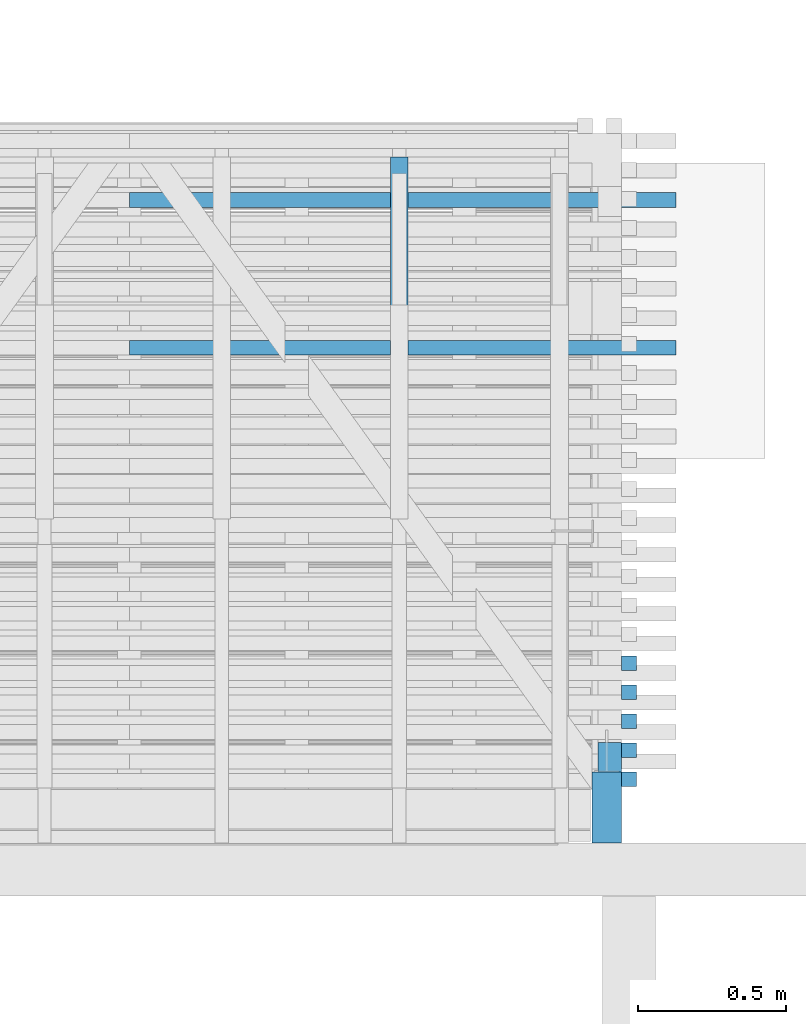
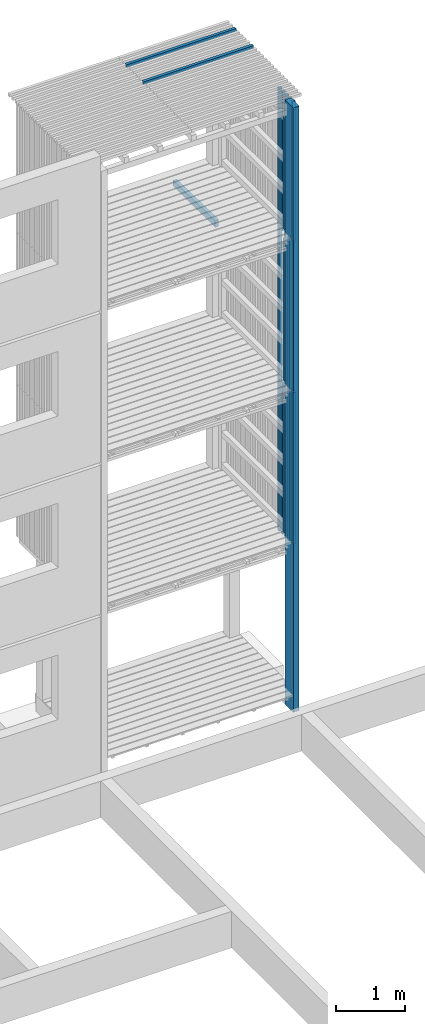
# One storey, part 128 of 182: 20 beams.
"""IFC2X3 building model written with IfcOpenShell, lengths in metres."""

import ifcopenshell
import ifcopenshell.guid

model = None  # the IFC model being written
_history = None  # IfcOwnerHistory: only IFC2X3 demands one
_inside = {}  # id of a spatial element -> (the spatial element, [elements in it])
_under = {}  # id of a project, library or spatial element -> (it, [spatial elements below it])
_declared = {}  # id of a project -> (the project, [libraries it declares])
_typed = {}  # id of a type object -> (the type object, [elements of that type])
_made_of = {}  # id of a material, layer set ... -> (it, [elements and type objects made of it])


def new_model(schema):
    """Start an empty IFC model of exactly this schema.

    Asked for "IFC4X3", IfcOpenShell would pick the latest addendum, in which some entities
    have other attributes; the version numbers below select the first issue.
    IFC2X3 requires an IfcOwnerHistory on every rooted entity: one is made here for all.
    """
    global model, _history
    if schema == "IFC4X3":
        model = ifcopenshell.file(schema_version=(4, 3, 0, 0))
    else:
        model = ifcopenshell.file(schema=schema)
    _inside.clear()
    _under.clear()
    _declared.clear()
    _typed.clear()
    _made_of.clear()
    _history = None
    if model.schema == "IFC2X3":
        org = make("IfcOrganization", Name="unknown")
        user = make(
            "IfcPersonAndOrganization",
            ThePerson=make("IfcPerson", FamilyName="unknown"),
            TheOrganization=org,
        )
        app = make(
            "IfcApplication",
            ApplicationDeveloper=org,
            Version="unknown",
            ApplicationFullName="unknown",
            ApplicationIdentifier="unknown",
        )
        _history = make(
            "IfcOwnerHistory",
            OwningUser=user,
            OwningApplication=app,
            ChangeAction="ADDED",
            CreationDate=0,
        )
    return model


def make(cls, **values):
    """One entity of the class cls with the attributes given. An attribute that is None is left unset."""
    return model.create_entity(
        cls, **{name: value for name, value in values.items() if value is not None}
    )


def rooted(cls, **values):
    """An entity with a GlobalId (a new one), such as an element, a storey or a relation."""
    return make(cls, GlobalId=ifcopenshell.guid.new(), OwnerHistory=_history, **values)


def si_unit(unit_type, name, prefix=None):
    """IfcSIUnit, for example si_unit("LENGTHUNIT", "METRE", prefix="MILLI")."""
    return make("IfcSIUnit", UnitType=unit_type, Prefix=prefix, Name=name)


def assignment(units):
    """IfcUnitAssignment: the units of a project."""
    return None if units is None else make("IfcUnitAssignment", Units=units)


def point(xyz):
    """IfcCartesianPoint."""
    return None if xyz is None else make("IfcCartesianPoint", Coordinates=xyz)


def direction(xyz):
    """IfcDirection."""
    return None if xyz is None else make("IfcDirection", DirectionRatios=xyz)


def frame(location, z_axis=None, x_axis=None):
    """IfcAxis2Placement3D, a coordinate frame: its origin and axes. An axis left out is left unset."""
    return make(
        "IfcAxis2Placement3D",
        Location=point(location),
        Axis=direction(z_axis),
        RefDirection=direction(x_axis),
    )


def origin():
    """The frame at (0, 0, 0) with its axes left unset."""
    return frame((0.0, 0.0, 0.0))


def place(relative_to, where):
    """IfcLocalPlacement: puts the frame where relative to a parent placement (None: the world)."""
    return make(
        "IfcLocalPlacement", PlacementRelTo=relative_to, RelativePlacement=where
    )


def context(
    kind, dimensions, precision=None, world=None, true_north=None, identifier=None
):
    """IfcGeometricRepresentationContext, for example the 3D "Model" context."""
    return make(
        "IfcGeometricRepresentationContext",
        ContextIdentifier=identifier,
        ContextType=kind,
        CoordinateSpaceDimension=dimensions,
        Precision=precision,
        WorldCoordinateSystem=world,
        TrueNorth=true_north,
    )


def project(units=None, contexts=None):
    """IfcProject with its units and contexts."""
    return rooted(
        "IfcProject",
        Name="project",
        RepresentationContexts=contexts,
        UnitsInContext=assignment(units),
    )


def spatial(cls, under=None, at=None, **own):
    """A site, building, storey or space (cls), placed at a placement, below another one or the project."""
    s = rooted(cls, ObjectPlacement=at, **own)
    if under is not None:
        _under.setdefault(under.id(), (under, []))[1].append(s)
    return s


def faces_of(points, faces, orient=None, outer=None):
    """IfcFace entities. A face is a list of loops; a loop is a list of indices into points, from 0.

    orient and outer hold one flag for each loop. By default every Orientation is true, the
    first loop of a face is its IfcFaceOuterBound and the others are IfcFaceBound.
    """
    made = []
    for i, loops in enumerate(faces):
        bounds = []
        for j, loop in enumerate(loops):
            is_outer = j == 0 if outer is None else outer[i][j]
            bounds.append(
                make(
                    "IfcFaceOuterBound" if is_outer else "IfcFaceBound",
                    Bound=make("IfcPolyLoop", Polygon=[points[k] for k in loop]),
                    Orientation=True if orient is None else orient[i][j],
                )
            )
        made.append(make("IfcFace", Bounds=bounds))
    return made


def faceted_brep(points, faces, orient=None, outer=None, voids=None):
    """IfcFacetedBrep: a solid bounded by flat faces; with voids (closed shells), ...WithVoids."""
    shared = [point(p) for p in points]
    hull = make("IfcClosedShell", CfsFaces=faces_of(shared, faces, orient, outer))
    if voids is None:
        return make("IfcFacetedBrep", Outer=hull)
    return make(
        "IfcFacetedBrepWithVoids",
        Outer=hull,
        Voids=[
            make(cls, CfsFaces=faces_of(shared, fs, o, b)) for cls, fs, o, b in voids
        ],
    )


def shape(context_of_items, identifier, shape_type, items):
    """IfcShapeRepresentation: the items that make up one representation, for example the "Body"."""
    return make(
        "IfcShapeRepresentation",
        ContextOfItems=context_of_items,
        RepresentationIdentifier=identifier,
        RepresentationType=shape_type,
        Items=items,
    )


def made_of(thing, what):
    """Note that an element or type object is made of a material, layer set ...; save() writes the relation."""
    if what is not None:
        _made_of.setdefault(what.id(), (what, []))[1].append(thing)
    return thing


def element(
    cls,
    number,
    at=None,
    inside=None,
    cuts=None,
    type_object=None,
    material=None,
    context=None,
    identifier="Body",
    shape_type=None,
    held_by="IfcProductDefinitionShape",
    body=None,
    shapes=None,
    **own,
):
    """One element of the class cls, such as IfcWall. Its Tag is "e" and its number.

    at: its placement. inside: the storey or other place that contains it. cuts: it is an
    opening in that element (IfcRelVoidsElement). A single representation is given by context,
    identifier, shape_type and body (its items); several are given by shapes. held_by: the class
    of the entity that holds the representations. save() writes the other relations.
    """
    e = rooted(cls, Tag="e%d" % number, ObjectPlacement=at, **own)
    if body is not None:
        shapes = [shape(context, identifier, shape_type, body)]
    if shapes is not None:
        e.Representation = make(held_by, Representations=shapes)
    if inside is not None:
        _inside.setdefault(inside.id(), (inside, []))[1].append(e)
    if cuts is not None:
        rooted(
            "IfcRelVoidsElement", RelatingBuildingElement=cuts, RelatedOpeningElement=e
        )
    if type_object is not None:
        _typed.setdefault(type_object.id(), (type_object, []))[1].append(e)
    return made_of(e, material)


def aggregate(whole, parts):
    """IfcRelAggregates: a whole, such as a stair, and the parts it consists of."""
    return rooted("IfcRelAggregates", RelatingObject=whole, RelatedObjects=parts)


def save(model, path):
    """Write the relations noted so far, then the file.

    IfcRelAggregates (storeys below a building ...), IfcRelContainedInSpatialStructure (elements
    in a storey), IfcRelDefinesByType, IfcRelAssociatesMaterial and IfcRelDeclares: one each for
    every whole, place, type object, material and project.
    """
    for whole, parts in _under.values():
        aggregate(whole, parts)
    for where, things in _inside.values():
        rooted(
            "IfcRelContainedInSpatialStructure",
            RelatedElements=things,
            RelatingStructure=where,
        )
    for kind, things in _typed.values():
        rooted("IfcRelDefinesByType", RelatedObjects=things, RelatingType=kind)
    for what, things in _made_of.values():
        rooted("IfcRelAssociatesMaterial", RelatedObjects=things, RelatingMaterial=what)
    for by, libraries in _declared.values():
        rooted("IfcRelDeclares", RelatingContext=by, RelatedDefinitions=libraries)
    model.write(path)


model = new_model("IFC2X3")

# Units and contexts
model_context = context("Model", 3, precision=1e-06, world=origin())
ifc_project = project(units=[si_unit("LENGTHUNIT", "METRE"), si_unit("PLANEANGLEUNIT", "RADIAN")], contexts=[model_context])

# Site, building, storey
site = spatial("IfcSite", under=ifc_project, CompositionType="ELEMENT")
building = spatial("IfcBuilding", under=site, CompositionType="ELEMENT")
storey = spatial("IfcBuildingStorey", under=building, Name="vs", CompositionType="ELEMENT", Elevation=-0.85)

# Beams
placement = place(None, origin())
beam_1_placement = place(placement, frame((56.37999999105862, 5.281441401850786, 7.974999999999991), z_axis=(-1.0, 0.0, 0.0), x_axis=(0.0, 0.0, 1.0)))
element("IfcBeam", 1, at=beam_1_placement, inside=storey, Name="Bardage", context=model_context, shape_type="Brep", body=[
    faceted_brep([(2.479999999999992, -0.024999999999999, 0.024999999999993), (2.479999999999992, -0.024999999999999, -0.025000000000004), (2.479999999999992, 0.025000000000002, -0.025000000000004), (2.479999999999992, 0.025000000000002, 0.024999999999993), (0.0, 0.025000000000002, 0.024999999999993), (0.0, -0.024999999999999, 0.024999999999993), (2.479999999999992, -0.024999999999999, 0.024999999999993), (2.479999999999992, 0.025000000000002, 0.024999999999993), (0.0, -0.024999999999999, 0.024999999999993), (0.0, 0.025000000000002, 0.024999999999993), (0.0, 0.025000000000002, -0.025000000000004), (0.0, -0.024999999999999, -0.025000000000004), (0.0, 0.025000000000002, -0.025000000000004), (0.0, 0.025000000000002, 0.024999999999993), (2.479999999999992, 0.025000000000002, 0.024999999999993), (2.479999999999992, 0.025000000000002, -0.025000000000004), (0.0, -0.024999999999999, -0.025000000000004), (0.0, 0.025000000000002, -0.025000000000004), (2.479999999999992, 0.025000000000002, -0.025000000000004), (2.479999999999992, -0.024999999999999, -0.025000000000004), (2.479999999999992, -0.024999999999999, 0.024999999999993), (0.0, -0.024999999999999, 0.024999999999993), (0.0, -0.024999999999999, -0.025000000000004), (2.479999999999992, -0.024999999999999, -0.025000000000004)], [[[0, 1, 2, 3]], [[4, 5, 6, 7]], [[8, 9, 10, 11]], [[12, 13, 14, 15]], [[16, 17, 18, 19]], [[20, 21, 22, 23]]]),
])
beam_2_placement = place(placement, frame((56.37999999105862, 5.085077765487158, 7.974999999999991), z_axis=(-1.0, 0.0, 0.0), x_axis=(0.0, 0.0, 1.0)))
element("IfcBeam", 2, at=beam_2_placement, inside=storey, Name="Bardage", context=model_context, shape_type="Brep", body=[
    faceted_brep([(2.479999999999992, -0.025000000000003, 0.024999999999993), (2.479999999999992, -0.025000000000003, -0.025000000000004), (2.479999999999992, 0.024999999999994, -0.025000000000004), (2.479999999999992, 0.024999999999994, 0.024999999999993), (0.0, 0.024999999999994, 0.024999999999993), (0.0, -0.025000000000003, 0.024999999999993), (2.479999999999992, -0.025000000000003, 0.024999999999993), (2.479999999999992, 0.024999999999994, 0.024999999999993), (0.0, -0.025000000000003, 0.024999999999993), (0.0, 0.024999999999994, 0.024999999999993), (0.0, 0.024999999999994, -0.025000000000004), (0.0, -0.025000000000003, -0.025000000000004), (0.0, 0.024999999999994, -0.025000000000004), (0.0, 0.024999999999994, 0.024999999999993), (2.479999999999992, 0.024999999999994, 0.024999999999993), (2.479999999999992, 0.024999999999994, -0.025000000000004), (0.0, -0.025000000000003, -0.025000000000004), (0.0, 0.024999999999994, -0.025000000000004), (2.479999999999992, 0.024999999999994, -0.025000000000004), (2.479999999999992, -0.025000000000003, -0.025000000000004), (2.479999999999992, -0.025000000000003, 0.024999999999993), (0.0, -0.025000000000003, 0.024999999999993), (0.0, -0.025000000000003, -0.025000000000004), (2.479999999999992, -0.025000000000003, -0.025000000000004)], [[[0, 1, 2, 3]], [[4, 5, 6, 7]], [[8, 9, 10, 11]], [[12, 13, 14, 15]], [[16, 17, 18, 19]], [[20, 21, 22, 23]]]),
])
beam_3_placement = place(placement, frame((56.37999999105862, 5.085077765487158, 2.575000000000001), z_axis=(-1.0, 0.0, 0.0), x_axis=(0.0, 0.0, 1.0)))
element("IfcBeam", 3, at=beam_3_placement, inside=storey, Name="Bardage", context=model_context, shape_type="Brep", body=[
    faceted_brep([(0.0, -0.025000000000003, 0.024999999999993), (0.0, 0.024999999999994, 0.024999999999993), (0.0, 0.024999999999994, -0.025000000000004), (0.0, -0.025000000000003, -0.025000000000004), (2.699961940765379, 0.024999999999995, -0.025000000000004), (2.699961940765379, 0.024999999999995, 0.024999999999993), (2.699961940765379, -0.025000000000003, 0.024999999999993), (2.699961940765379, -0.025000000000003, -0.025000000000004), (0.0, -0.025000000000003, -0.025000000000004), (0.0, 0.024999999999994, -0.025000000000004), (2.699961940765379, 0.024999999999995, -0.025000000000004), (2.699961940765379, -0.025000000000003, -0.025000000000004), (2.699961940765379, 0.024999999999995, -0.025000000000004), (0.0, 0.024999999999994, -0.025000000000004), (0.0, 0.024999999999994, 0.024999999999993), (2.699961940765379, 0.024999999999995, 0.024999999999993), (2.699961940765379, 0.024999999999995, 0.024999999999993), (0.0, 0.024999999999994, 0.024999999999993), (0.0, -0.025000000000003, 0.024999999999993), (2.699961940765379, -0.025000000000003, 0.024999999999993), (2.699961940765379, -0.025000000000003, 0.024999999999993), (0.0, -0.025000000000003, 0.024999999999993), (0.0, -0.025000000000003, -0.025000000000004), (2.699961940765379, -0.025000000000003, -0.025000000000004)], [[[0, 1, 2, 3]], [[4, 5, 6, 7]], [[8, 9, 10, 11]], [[12, 13, 14, 15]], [[16, 17, 18, 19]], [[20, 21, 22, 23]]]),
])
beam_4_placement = place(placement, frame((56.37999999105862, 5.379623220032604, 7.974999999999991), z_axis=(-1.0, 0.0, 0.0), x_axis=(0.0, 1e-15, 1.0)))
element("IfcBeam", 4, at=beam_4_placement, inside=storey, Name="Bardage", context=model_context, shape_type="Brep", body=[
    faceted_brep([(2.479999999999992, -0.025000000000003, 0.024999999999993), (2.479999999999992, -0.025000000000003, -0.025000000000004), (2.479999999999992, 0.024999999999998, -0.025000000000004), (2.479999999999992, 0.024999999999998, 0.024999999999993), (0.0, 0.025000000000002, 0.024999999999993), (0.0, -0.024999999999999, 0.024999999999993), (2.479999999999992, -0.025000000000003, 0.024999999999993), (2.479999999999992, 0.024999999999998, 0.024999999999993), (0.0, -0.024999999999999, 0.024999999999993), (0.0, 0.025000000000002, 0.024999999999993), (0.0, 0.025000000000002, -0.025000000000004), (0.0, -0.024999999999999, -0.025000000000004), (0.0, 0.025000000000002, -0.025000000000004), (0.0, 0.025000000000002, 0.024999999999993), (2.479999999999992, 0.024999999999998, 0.024999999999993), (2.479999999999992, 0.024999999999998, -0.025000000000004), (0.0, -0.024999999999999, -0.025000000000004), (0.0, 0.025000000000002, -0.025000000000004), (2.479999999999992, 0.024999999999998, -0.025000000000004), (2.479999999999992, -0.025000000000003, -0.025000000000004), (2.479999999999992, -0.025000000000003, 0.024999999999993), (0.0, -0.024999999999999, 0.024999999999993), (0.0, -0.024999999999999, -0.025000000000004), (2.479999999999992, -0.025000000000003, -0.025000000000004)], [[[0, 1, 2, 3]], [[4, 5, 6, 7]], [[8, 9, 10, 11]], [[12, 13, 14, 15]], [[16, 17, 18, 19]], [[20, 21, 22, 23]]]),
])
beam_5_placement = place(placement, frame((56.37999999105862, 5.379623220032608, 2.575000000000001), z_axis=(-1.0, 0.0, 0.0), x_axis=(0.0, 0.0, 1.0)))
element("IfcBeam", 5, at=beam_5_placement, inside=storey, Name="Bardage", context=model_context, shape_type="Brep", body=[
    faceted_brep([(0.0, -0.025000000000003, 0.024999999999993), (0.0, 0.024999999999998, 0.024999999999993), (0.0, 0.024999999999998, -0.025000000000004), (0.0, -0.025000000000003, -0.025000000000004), (2.699961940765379, 0.024999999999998, -0.025000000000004), (2.699961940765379, 0.024999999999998, 0.024999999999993), (2.699961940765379, -0.025000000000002, 0.024999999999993), (2.699961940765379, -0.025000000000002, -0.025000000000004), (0.0, -0.025000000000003, -0.025000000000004), (0.0, 0.024999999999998, -0.025000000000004), (2.699961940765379, 0.024999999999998, -0.025000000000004), (2.699961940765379, -0.025000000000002, -0.025000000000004), (2.699961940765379, 0.024999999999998, -0.025000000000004), (0.0, 0.024999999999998, -0.025000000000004), (0.0, 0.024999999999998, 0.024999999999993), (2.699961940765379, 0.024999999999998, 0.024999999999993), (2.699961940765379, 0.024999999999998, 0.024999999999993), (0.0, 0.024999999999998, 0.024999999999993), (0.0, -0.025000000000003, 0.024999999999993), (2.699961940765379, -0.025000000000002, 0.024999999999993), (2.699961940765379, -0.025000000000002, 0.024999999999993), (0.0, -0.025000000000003, 0.024999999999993), (0.0, -0.025000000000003, -0.025000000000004), (2.699961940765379, -0.025000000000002, -0.025000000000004)], [[[0, 1, 2, 3]], [[4, 5, 6, 7]], [[8, 9, 10, 11]], [[12, 13, 14, 15]], [[16, 17, 18, 19]], [[20, 21, 22, 23]]]),
])
beam_6_placement = place(placement, frame((56.37999999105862, 5.281441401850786, 5.274999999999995), z_axis=(-1.0, 0.0, 0.0), x_axis=(0.0, 0.0, 1.0)))
element("IfcBeam", 6, at=beam_6_placement, inside=storey, Name="Bardage", context=model_context, shape_type="Brep", body=[
    faceted_brep([(1e-15, -0.024999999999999, 0.024999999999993), (1e-15, 0.025000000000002, 0.024999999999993), (1e-15, 0.025000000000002, -0.025000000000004), (1e-15, -0.024999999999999, -0.025000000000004), (2.699999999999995, -0.024999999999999, -0.025000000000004), (2.699999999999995, 0.025000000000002, -0.025000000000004), (2.699999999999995, 0.025000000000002, 0.024999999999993), (2.699999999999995, -0.024999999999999, 0.024999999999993), (1e-15, -0.024999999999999, 0.024999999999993), (1e-15, -0.024999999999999, -0.025000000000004), (2.699999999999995, -0.024999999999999, -0.025000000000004), (2.699999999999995, -0.024999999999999, 0.024999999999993), (2.699999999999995, -0.024999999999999, -0.025000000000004), (1e-15, -0.024999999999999, -0.025000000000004), (1e-15, 0.025000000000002, -0.025000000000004), (2.699999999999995, 0.025000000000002, -0.025000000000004), (2.699999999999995, 0.025000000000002, -0.025000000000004), (1e-15, 0.025000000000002, -0.025000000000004), (1e-15, 0.025000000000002, 0.024999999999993), (2.699999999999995, 0.025000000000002, 0.024999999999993), (2.699999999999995, 0.025000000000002, 0.024999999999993), (1e-15, 0.025000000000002, 0.024999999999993), (1e-15, -0.024999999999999, 0.024999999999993), (2.699999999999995, -0.024999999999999, 0.024999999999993)], [[[0, 1, 2, 3]], [[4, 5, 6, 7]], [[8, 9, 10, 11]], [[12, 13, 14, 15]], [[16, 17, 18, 19]], [[20, 21, 22, 23]]]),
])
beam_7_placement = place(placement, frame((56.314999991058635, 5.160077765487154, 8.14699999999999), z_axis=(0.0, 1.0, 0.0), x_axis=(0.0, 0.0, 1.0)))
element("IfcBeam", 7, at=beam_7_placement, inside=storey, Name="Support bardage", context=model_context, shape_type="Brep", body=[
    faceted_brep([(2.017999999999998, 0.039999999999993, -0.050000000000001), (2.017999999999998, 0.039999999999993, 0.05), (2.017999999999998, -0.04000000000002, 0.05), (2.017999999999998, -0.04000000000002, -0.050000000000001), (1e-15, -0.04000000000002, -0.050000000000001), (1e-15, -0.04000000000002, 0.05), (1e-15, 0.039999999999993, 0.05), (1e-15, 0.039999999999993, -0.050000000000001), (1e-15, -0.04000000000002, -0.050000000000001), (1e-15, 0.039999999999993, -0.050000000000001), (2.017999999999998, 0.039999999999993, -0.050000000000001), (2.017999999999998, -0.04000000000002, -0.050000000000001), (1e-15, -0.04000000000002, 0.05), (1e-15, -0.04000000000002, -0.050000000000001), (2.017999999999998, -0.04000000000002, -0.050000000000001), (2.017999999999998, -0.04000000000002, 0.05), (1e-15, 0.039999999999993, 0.05), (1e-15, -0.04000000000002, 0.05), (2.017999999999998, -0.04000000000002, 0.05), (2.017999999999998, 0.039999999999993, 0.05), (1e-15, 0.039999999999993, -0.050000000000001), (1e-15, 0.039999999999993, 0.05), (2.017999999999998, 0.039999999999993, 0.05), (2.017999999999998, 0.039999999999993, -0.050000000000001)], [[[0, 1, 2, 3]], [[4, 5, 6, 7]], [[8, 9, 10, 11]], [[12, 13, 14, 15]], [[16, 17, 18, 19]], [[20, 21, 22, 23]]]),
])
beam_8_placement = place(placement, frame((56.314999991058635, 5.160077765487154, 5.446999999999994), z_axis=(0.0, 1.0, 0.0), x_axis=(0.0, 0.0, 1.0)))
element("IfcBeam", 8, at=beam_8_placement, inside=storey, Name="Support bardage", context=model_context, shape_type="Brep", body=[
    faceted_brep([(2.527999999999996, -0.04000000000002, -0.050000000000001), (2.527999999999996, 0.039999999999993, -0.050000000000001), (2.527999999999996, 0.039999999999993, 0.05), (2.527999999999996, -0.04000000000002, 0.05), (-1e-15, -0.04000000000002, 0.05), (-1e-15, -0.04000000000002, -0.050000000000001), (2.527999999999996, -0.04000000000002, -0.050000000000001), (2.527999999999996, -0.04000000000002, 0.05), (-1e-15, -0.04000000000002, -0.050000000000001), (-1e-15, -0.04000000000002, 0.05), (-1e-15, 0.039999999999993, 0.05), (-1e-15, 0.039999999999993, -0.050000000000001), (2.527999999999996, -0.04000000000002, -0.050000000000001), (-1e-15, -0.04000000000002, -0.050000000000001), (-1e-15, 0.039999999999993, -0.050000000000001), (2.527999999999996, 0.039999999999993, -0.050000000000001), (2.527999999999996, 0.039999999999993, -0.050000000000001), (-1e-15, 0.039999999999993, -0.050000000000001), (-1e-15, 0.039999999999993, 0.05), (2.527999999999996, 0.039999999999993, 0.05), (2.527999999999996, 0.039999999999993, 0.05), (-1e-15, 0.039999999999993, 0.05), (-1e-15, -0.04000000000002, 0.05), (2.527999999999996, -0.04000000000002, 0.05)], [[[0, 1, 2, 3]], [[4, 5, 6, 7]], [[8, 9, 10, 11]], [[12, 13, 14, 15]], [[16, 17, 18, 19]], [[20, 21, 22, 23]]]),
])
beam_9_placement = place(placement, frame((56.37999999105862, 5.477805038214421, 2.575000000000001), z_axis=(-1.0, 0.0, 0.0), x_axis=(0.0, 0.0, 1.0)))
element("IfcBeam", 9, at=beam_9_placement, inside=storey, Name="Bardage", context=model_context, shape_type="Brep", body=[
    faceted_brep([(0.0, -0.024999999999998, 0.024999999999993), (0.0, 0.024999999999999, 0.024999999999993), (0.0, 0.024999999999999, -0.025000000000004), (0.0, -0.024999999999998, -0.025000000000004), (2.699961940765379, 0.024999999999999, -0.025000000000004), (2.699961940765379, 0.024999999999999, 0.024999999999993), (2.699961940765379, -0.024999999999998, 0.024999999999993), (2.699961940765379, -0.024999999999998, -0.025000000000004), (0.0, -0.024999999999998, -0.025000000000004), (0.0, 0.024999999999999, -0.025000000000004), (2.699961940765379, 0.024999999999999, -0.025000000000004), (2.699961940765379, -0.024999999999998, -0.025000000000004), (2.699961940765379, 0.024999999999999, -0.025000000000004), (0.0, 0.024999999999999, -0.025000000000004), (0.0, 0.024999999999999, 0.024999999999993), (2.699961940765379, 0.024999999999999, 0.024999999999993), (2.699961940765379, 0.024999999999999, 0.024999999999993), (0.0, 0.024999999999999, 0.024999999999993), (0.0, -0.024999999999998, 0.024999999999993), (2.699961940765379, -0.024999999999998, 0.024999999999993), (2.699961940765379, -0.024999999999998, 0.024999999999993), (0.0, -0.024999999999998, 0.024999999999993), (0.0, -0.024999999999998, -0.025000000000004), (2.699961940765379, -0.024999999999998, -0.025000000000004)], [[[0, 1, 2, 3]], [[4, 5, 6, 7]], [[8, 9, 10, 11]], [[12, 13, 14, 15]], [[16, 17, 18, 19]], [[20, 21, 22, 23]]]),
])
beam_10_placement = place(placement, frame((56.30499999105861, 4.990077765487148, 10.494999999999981), z_axis=(0.0, 1.0, 0.0), x_axis=(0.0, 0.0, -1.0)))
element("IfcBeam", 10, at=beam_10_placement, inside=storey, Name="Poteau", context=model_context, shape_type="Brep", body=[
    faceted_brep([(0.0, -0.050000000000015, -0.120000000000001), (10.754999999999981, -0.050000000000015, -0.120000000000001), (10.754999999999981, -0.050000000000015, 0.120000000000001), (0.0, -0.050000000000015, 0.120000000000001), (0.0, 0.049999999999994, -0.120000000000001), (10.754999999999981, 0.049999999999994, -0.120000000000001), (10.754999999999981, -0.050000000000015, -0.120000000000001), (0.0, -0.050000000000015, -0.120000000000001), (10.754999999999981, -0.050000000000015, 0.120000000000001), (10.754999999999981, -0.050000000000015, -0.120000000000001), (10.754999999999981, 0.049999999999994, -0.120000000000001), (10.754999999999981, 0.049999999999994, 0.120000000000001), (0.0, -0.050000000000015, 0.120000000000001), (10.754999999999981, -0.050000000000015, 0.120000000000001), (10.754999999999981, 0.049999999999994, 0.120000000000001), (0.0, 0.049999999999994, 0.120000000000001), (0.0, 0.049999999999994, 0.120000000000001), (10.754999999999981, 0.049999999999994, 0.120000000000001), (10.754999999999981, 0.049999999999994, -0.120000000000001), (0.0, 0.049999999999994, -0.120000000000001), (0.0, 0.049999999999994, 0.120000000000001), (0.0, 0.049999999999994, -0.120000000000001), (0.0, -0.050000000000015, -0.120000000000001), (0.0, -0.050000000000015, 0.120000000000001)], [[[0, 1, 2, 3]], [[4, 5, 6, 7]], [[8, 9, 10, 11]], [[12, 13, 14, 15]], [[16, 17, 18, 19]], [[20, 21, 22, 23]]]),
])
beam_11_placement = place(placement, frame((56.314999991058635, 5.160077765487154, 2.746999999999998), z_axis=(0.0, 1.0, 0.0), x_axis=(0.0, 0.0, 1.0)))
element("IfcBeam", 11, at=beam_11_placement, inside=storey, Name="Support bardage", context=model_context, shape_type="Brep", body=[
    faceted_brep([(2.527961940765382, 0.039999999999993, -0.050000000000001), (2.527961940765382, 0.039999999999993, 0.05), (2.527961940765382, -0.04000000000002, 0.05), (2.527961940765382, -0.04000000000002, -0.050000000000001), (0.0, -0.04000000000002, -0.050000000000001), (0.0, 0.039999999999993, -0.050000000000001), (2.527961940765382, 0.039999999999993, -0.050000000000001), (2.527961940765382, -0.04000000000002, -0.050000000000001), (0.0, 0.039999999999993, -0.050000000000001), (0.0, -0.04000000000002, -0.050000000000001), (0.0, -0.04000000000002, 0.05), (0.0, 0.039999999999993, 0.05), (2.527961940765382, 0.039999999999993, -0.050000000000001), (0.0, 0.039999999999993, -0.050000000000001), (0.0, 0.039999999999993, 0.05), (2.527961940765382, 0.039999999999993, 0.05), (2.527961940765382, 0.039999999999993, 0.05), (0.0, 0.039999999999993, 0.05), (0.0, -0.04000000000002, 0.05), (2.527961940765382, -0.04000000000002, 0.05), (2.527961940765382, -0.04000000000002, 0.05), (0.0, -0.04000000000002, 0.05), (0.0, -0.04000000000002, -0.050000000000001), (2.527961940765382, -0.04000000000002, -0.050000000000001)], [[[0, 1, 2, 3]], [[4, 5, 6, 7]], [[8, 9, 10, 11]], [[12, 13, 14, 15]], [[16, 17, 18, 19]], [[20, 21, 22, 23]]]),
])
beam_12_placement = place(placement, frame((56.37999999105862, 5.477805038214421, 5.274999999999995), z_axis=(-1.0, 0.0, 0.0), x_axis=(0.0, 0.0, 1.0)))
element("IfcBeam", 12, at=beam_12_placement, inside=storey, Name="Bardage", context=model_context, shape_type="Brep", body=[
    faceted_brep([(1e-15, -0.024999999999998, 0.024999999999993), (1e-15, 0.024999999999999, 0.024999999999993), (1e-15, 0.024999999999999, -0.025000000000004), (1e-15, -0.024999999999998, -0.025000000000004), (2.699999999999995, -0.024999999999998, -0.025000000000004), (2.699999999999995, 0.024999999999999, -0.025000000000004), (2.699999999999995, 0.024999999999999, 0.024999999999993), (2.699999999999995, -0.024999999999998, 0.024999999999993), (1e-15, -0.024999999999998, 0.024999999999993), (1e-15, -0.024999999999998, -0.025000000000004), (2.699999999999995, -0.024999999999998, -0.025000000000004), (2.699999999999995, -0.024999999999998, 0.024999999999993), (2.699999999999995, -0.024999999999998, -0.025000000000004), (1e-15, -0.024999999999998, -0.025000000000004), (1e-15, 0.024999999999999, -0.025000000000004), (2.699999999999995, 0.024999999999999, -0.025000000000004), (2.699999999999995, 0.024999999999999, -0.025000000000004), (1e-15, 0.024999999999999, -0.025000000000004), (1e-15, 0.024999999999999, 0.024999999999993), (2.699999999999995, 0.024999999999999, 0.024999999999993), (2.699999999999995, 0.024999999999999, 0.024999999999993), (1e-15, 0.024999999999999, 0.024999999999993), (1e-15, -0.024999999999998, 0.024999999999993), (2.699999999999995, -0.024999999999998, 0.024999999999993)], [[[0, 1, 2, 3]], [[4, 5, 6, 7]], [[8, 9, 10, 11]], [[12, 13, 14, 15]], [[16, 17, 18, 19]], [[20, 21, 22, 23]]]),
])
beam_13_placement = place(placement, frame((56.37999999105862, 5.183259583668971, 7.974999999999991), z_axis=(-1.0, 0.0, 0.0), x_axis=(0.0, 0.0, 1.0)))
element("IfcBeam", 13, at=beam_13_placement, inside=storey, Name="Bardage", context=model_context, shape_type="Brep", body=[
    faceted_brep([(2.479999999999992, -0.025000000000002, 0.024999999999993), (2.479999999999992, -0.025000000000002, -0.025000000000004), (2.479999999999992, 0.024999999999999, -0.025000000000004), (2.479999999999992, 0.024999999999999, 0.024999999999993), (0.0, 0.024999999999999, 0.024999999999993), (0.0, -0.025000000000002, 0.024999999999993), (2.479999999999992, -0.025000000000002, 0.024999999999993), (2.479999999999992, 0.024999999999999, 0.024999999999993), (0.0, -0.025000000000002, 0.024999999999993), (0.0, 0.024999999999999, 0.024999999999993), (0.0, 0.024999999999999, -0.025000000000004), (0.0, -0.025000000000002, -0.025000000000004), (0.0, 0.024999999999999, -0.025000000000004), (0.0, 0.024999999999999, 0.024999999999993), (2.479999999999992, 0.024999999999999, 0.024999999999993), (2.479999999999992, 0.024999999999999, -0.025000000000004), (0.0, -0.025000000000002, -0.025000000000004), (0.0, 0.024999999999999, -0.025000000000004), (2.479999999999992, 0.024999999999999, -0.025000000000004), (2.479999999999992, -0.025000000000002, -0.025000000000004), (2.479999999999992, -0.025000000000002, 0.024999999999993), (0.0, -0.025000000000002, 0.024999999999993), (0.0, -0.025000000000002, -0.025000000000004), (2.479999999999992, -0.025000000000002, -0.025000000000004)], [[[0, 1, 2, 3]], [[4, 5, 6, 7]], [[8, 9, 10, 11]], [[12, 13, 14, 15]], [[16, 17, 18, 19]], [[20, 21, 22, 23]]]),
])
beam_14_placement = place(placement, frame((56.37999999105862, 5.183259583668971, 2.575000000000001), z_axis=(-1.0, 0.0, 0.0), x_axis=(0.0, 0.0, 1.0)))
element("IfcBeam", 14, at=beam_14_placement, inside=storey, Name="Bardage", context=model_context, shape_type="Brep", body=[
    faceted_brep([(0.0, -0.025000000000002, 0.024999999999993), (0.0, 0.024999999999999, 0.024999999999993), (0.0, 0.024999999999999, -0.025000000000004), (0.0, -0.025000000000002, -0.025000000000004), (2.699961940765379, 0.024999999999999, -0.025000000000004), (2.699961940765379, 0.024999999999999, 0.024999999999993), (2.699961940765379, -0.025000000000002, 0.024999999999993), (2.699961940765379, -0.025000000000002, -0.025000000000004), (0.0, -0.025000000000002, -0.025000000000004), (0.0, 0.024999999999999, -0.025000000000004), (2.699961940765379, 0.024999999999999, -0.025000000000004), (2.699961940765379, -0.025000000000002, -0.025000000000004), (2.699961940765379, 0.024999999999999, -0.025000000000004), (0.0, 0.024999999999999, -0.025000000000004), (0.0, 0.024999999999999, 0.024999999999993), (2.699961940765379, 0.024999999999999, 0.024999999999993), (2.699961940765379, 0.024999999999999, 0.024999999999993), (0.0, 0.024999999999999, 0.024999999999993), (0.0, -0.025000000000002, 0.024999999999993), (2.699961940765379, -0.025000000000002, 0.024999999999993), (2.699961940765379, -0.025000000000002, 0.024999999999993), (0.0, -0.025000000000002, 0.024999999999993), (0.0, -0.025000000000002, -0.025000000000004), (2.699961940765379, -0.025000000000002, -0.025000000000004)], [[[0, 1, 2, 3]], [[4, 5, 6, 7]], [[8, 9, 10, 11]], [[12, 13, 14, 15]], [[16, 17, 18, 19]], [[20, 21, 22, 23]]]),
])
beam_15_placement = place(placement, frame((56.37999999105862, 5.281441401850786, 2.575000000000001), z_axis=(-1.0, 0.0, 0.0), x_axis=(0.0, 0.0, 1.0)))
element("IfcBeam", 15, at=beam_15_placement, inside=storey, Name="Bardage", context=model_context, shape_type="Brep", body=[
    faceted_brep([(0.0, -0.024999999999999, 0.024999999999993), (0.0, 0.025000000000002, 0.024999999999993), (0.0, 0.025000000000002, -0.025000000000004), (0.0, -0.024999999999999, -0.025000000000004), (2.699961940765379, 0.025000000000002, -0.025000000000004), (2.699961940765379, 0.025000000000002, 0.024999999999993), (2.699961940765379, -0.024999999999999, 0.024999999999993), (2.699961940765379, -0.024999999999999, -0.025000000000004), (0.0, -0.024999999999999, -0.025000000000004), (0.0, 0.025000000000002, -0.025000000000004), (2.699961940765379, 0.025000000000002, -0.025000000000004), (2.699961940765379, -0.024999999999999, -0.025000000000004), (2.699961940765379, 0.025000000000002, -0.025000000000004), (0.0, 0.025000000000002, -0.025000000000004), (0.0, 0.025000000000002, 0.024999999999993), (2.699961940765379, 0.025000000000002, 0.024999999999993), (2.699961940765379, 0.025000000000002, 0.024999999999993), (0.0, 0.025000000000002, 0.024999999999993), (0.0, -0.024999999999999, 0.024999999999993), (2.699961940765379, -0.024999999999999, 0.024999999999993), (2.699961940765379, -0.024999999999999, 0.024999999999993), (0.0, -0.024999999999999, 0.024999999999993), (0.0, -0.024999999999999, -0.025000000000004), (2.699961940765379, -0.024999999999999, -0.025000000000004)], [[[0, 1, 2, 3]], [[4, 5, 6, 7]], [[8, 9, 10, 11]], [[12, 13, 14, 15]], [[16, 17, 18, 19]], [[20, 21, 22, 23]]]),
])
beam_16_placement = place(placement, frame((56.37999999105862, 5.183259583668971, 5.274999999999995), z_axis=(-1.0, 0.0, 0.0), x_axis=(0.0, 0.0, 1.0)))
element("IfcBeam", 16, at=beam_16_placement, inside=storey, Name="Bardage", context=model_context, shape_type="Brep", body=[
    faceted_brep([(1e-15, -0.025000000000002, 0.024999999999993), (1e-15, 0.024999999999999, 0.024999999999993), (1e-15, 0.024999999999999, -0.025000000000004), (1e-15, -0.025000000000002, -0.025000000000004), (2.699999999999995, -0.025000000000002, -0.025000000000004), (2.699999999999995, 0.024999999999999, -0.025000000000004), (2.699999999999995, 0.024999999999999, 0.024999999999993), (2.699999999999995, -0.025000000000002, 0.024999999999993), (1e-15, -0.025000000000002, 0.024999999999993), (1e-15, -0.025000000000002, -0.025000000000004), (2.699999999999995, -0.025000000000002, -0.025000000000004), (2.699999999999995, -0.025000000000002, 0.024999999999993), (2.699999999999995, -0.025000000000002, -0.025000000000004), (1e-15, -0.025000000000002, -0.025000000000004), (1e-15, 0.024999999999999, -0.025000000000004), (2.699999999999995, 0.024999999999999, -0.025000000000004), (2.699999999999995, 0.024999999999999, -0.025000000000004), (1e-15, 0.024999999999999, -0.025000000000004), (1e-15, 0.024999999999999, 0.024999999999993), (2.699999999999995, 0.024999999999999, 0.024999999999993), (2.699999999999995, 0.024999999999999, 0.024999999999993), (1e-15, 0.024999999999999, 0.024999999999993), (1e-15, -0.025000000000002, 0.024999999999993), (2.699999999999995, -0.025000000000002, 0.024999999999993)], [[[0, 1, 2, 3]], [[4, 5, 6, 7]], [[8, 9, 10, 11]], [[12, 13, 14, 15]], [[16, 17, 18, 19]], [[20, 21, 22, 23]]]),
])
beam_17_placement = place(placement, frame((56.37999999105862, 5.477805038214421, 7.974999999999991), z_axis=(-1.0, 0.0, 0.0), x_axis=(0.0, 0.0, 1.0)))
element("IfcBeam", 17, at=beam_17_placement, inside=storey, Name="Bardage", context=model_context, shape_type="Brep", body=[
    faceted_brep([(2.479999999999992, -0.024999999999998, 0.024999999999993), (2.479999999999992, -0.024999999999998, -0.025000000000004), (2.479999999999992, 0.024999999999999, -0.025000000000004), (2.479999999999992, 0.024999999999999, 0.024999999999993), (0.0, 0.024999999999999, 0.024999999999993), (0.0, -0.024999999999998, 0.024999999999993), (2.479999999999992, -0.024999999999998, 0.024999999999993), (2.479999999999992, 0.024999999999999, 0.024999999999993), (0.0, -0.024999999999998, 0.024999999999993), (0.0, 0.024999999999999, 0.024999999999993), (0.0, 0.024999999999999, -0.025000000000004), (0.0, -0.024999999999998, -0.025000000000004), (0.0, 0.024999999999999, -0.025000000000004), (0.0, 0.024999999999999, 0.024999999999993), (2.479999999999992, 0.024999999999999, 0.024999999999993), (2.479999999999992, 0.024999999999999, -0.025000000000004), (0.0, -0.024999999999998, -0.025000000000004), (0.0, 0.024999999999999, -0.025000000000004), (2.479999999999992, 0.024999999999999, -0.025000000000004), (2.479999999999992, -0.024999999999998, -0.025000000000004), (2.479999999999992, -0.024999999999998, 0.024999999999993), (0.0, -0.024999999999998, 0.024999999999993), (0.0, -0.024999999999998, -0.025000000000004), (2.479999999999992, -0.024999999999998, -0.025000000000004)], [[[0, 1, 2, 3]], [[4, 5, 6, 7]], [[8, 9, 10, 11]], [[12, 13, 14, 15]], [[16, 17, 18, 19]], [[20, 21, 22, 23]]]),
])
beam_18_placement = place(placement, frame((56.539999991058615, 6.545077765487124, 10.47999999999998), z_axis=(0.0, 0.0, 1.0), x_axis=(-1.0, 0.0, 0.0)))
element("IfcBeam", 18, at=beam_18_placement, inside=storey, Name="Bardage", context=model_context, shape_type="Brep", body=[
    faceted_brep([(-3e-15, 0.024999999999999, 0.025000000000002), (-3e-15, -0.025000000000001, 0.025000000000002), (1.849999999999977, -0.025000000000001, 0.025000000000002), (1.849999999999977, 0.024999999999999, 0.025000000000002), (1.849999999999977, -0.025000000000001, 0.025000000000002), (-3e-15, -0.025000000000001, 0.025000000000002), (-3e-15, -0.025000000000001, -0.024999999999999), (1.849999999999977, -0.025000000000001, -0.024999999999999), (-3e-15, -0.025000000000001, 0.025000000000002), (-3e-15, 0.024999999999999, 0.025000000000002), (-3e-15, 0.024999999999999, -0.024999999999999), (-3e-15, -0.025000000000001, -0.024999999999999), (-3e-15, 0.024999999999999, -0.024999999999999), (-3e-15, 0.024999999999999, 0.025000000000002), (1.849999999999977, 0.024999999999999, 0.025000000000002), (1.849999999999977, 0.024999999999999, -0.024999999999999), (1.849999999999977, -0.025000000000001, -0.024999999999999), (-3e-15, -0.025000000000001, -0.024999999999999), (-3e-15, 0.024999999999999, -0.024999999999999), (1.849999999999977, 0.024999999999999, -0.024999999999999), (1.849999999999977, -0.025000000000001, 0.025000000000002), (1.849999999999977, -0.025000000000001, -0.024999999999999), (1.849999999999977, 0.024999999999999, -0.024999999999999), (1.849999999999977, 0.024999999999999, 0.025000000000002)], [[[0, 1, 2, 3]], [[4, 5, 6, 7]], [[8, 9, 10, 11]], [[12, 13, 14, 15]], [[16, 17, 18, 19]], [[20, 21, 22, 23]]]),
])
beam_19_placement = place(placement, frame((56.539999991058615, 7.045077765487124, 10.47999999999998), z_axis=(0.0, 0.0, 1.0), x_axis=(-1.0, 0.0, 0.0)))
element("IfcBeam", 19, at=beam_19_placement, inside=storey, Name="Bardage", context=model_context, shape_type="Brep", body=[
    faceted_brep([(-3e-15, 0.024999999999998, 0.025000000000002), (-3e-15, -0.025000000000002, 0.025000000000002), (1.849999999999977, -0.025000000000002, 0.025000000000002), (1.849999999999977, 0.024999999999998, 0.025000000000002), (1.849999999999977, -0.025000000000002, 0.025000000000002), (-3e-15, -0.025000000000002, 0.025000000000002), (-3e-15, -0.025000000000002, -0.024999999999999), (1.849999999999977, -0.025000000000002, -0.024999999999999), (-3e-15, -0.025000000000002, 0.025000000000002), (-3e-15, 0.024999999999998, 0.025000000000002), (-3e-15, 0.024999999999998, -0.024999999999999), (-3e-15, -0.025000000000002, -0.024999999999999), (-3e-15, 0.024999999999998, -0.024999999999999), (-3e-15, 0.024999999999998, 0.025000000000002), (1.849999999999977, 0.024999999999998, 0.025000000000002), (1.849999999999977, 0.024999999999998, -0.024999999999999), (1.849999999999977, -0.025000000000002, -0.024999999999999), (-3e-15, -0.025000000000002, -0.024999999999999), (-3e-15, 0.024999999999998, -0.024999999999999), (1.849999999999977, 0.024999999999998, -0.024999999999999), (1.849999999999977, -0.025000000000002, 0.025000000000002), (1.849999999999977, -0.025000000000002, -0.024999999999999), (1.849999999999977, 0.024999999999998, -0.024999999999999), (1.849999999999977, 0.024999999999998, 0.025000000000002)], [[[0, 1, 2, 3]], [[4, 5, 6, 7]], [[8, 9, 10, 11]], [[12, 13, 14, 15]], [[16, 17, 18, 19]], [[20, 21, 22, 23]]]),
])
beam_20_placement = place(placement, frame((55.60299999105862, 5.965077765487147, 8.00424999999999), z_axis=(0.0, 0.0, 1.0), x_axis=(1.2e-14, 1.0, 0.0)))
element("IfcBeam", 20, at=beam_20_placement, inside=storey, Name="Solive", context=model_context, shape_type="Brep", body=[
    faceted_brep([(0.0, -0.029999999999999, -0.061849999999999), (1.225000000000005, -0.029999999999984, -0.061849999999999), (1.225000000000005, -0.029999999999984, 0.037349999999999), (0.0, -0.029999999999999, 0.061849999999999), (-1e-15, 0.030000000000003, -0.061849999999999), (1.225000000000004, 0.030000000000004, -0.061849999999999), (1.225000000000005, -0.029999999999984, -0.061849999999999), (0.0, -0.029999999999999, -0.061849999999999), (-1e-15, 0.030000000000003, 0.061850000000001), (-1e-15, 0.030000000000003, -0.061849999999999), (0.0, -0.029999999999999, -0.061849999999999), (0.0, -0.029999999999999, 0.061849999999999), (1.225000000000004, 0.030000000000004, -0.061849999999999), (-1e-15, 0.030000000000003, -0.061849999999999), (-1e-15, 0.030000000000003, 0.061850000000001), (1.225000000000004, 0.030000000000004, 0.037349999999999), (1.225000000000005, -0.029999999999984, 0.037349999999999), (1.225000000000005, -0.029999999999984, -0.061849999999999), (1.225000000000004, 0.030000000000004, -0.061849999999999), (1.225000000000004, 0.030000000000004, 0.037349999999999), (0.0, -0.029999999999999, 0.061849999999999), (1.225000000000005, -0.029999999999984, 0.037349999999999), (1.225000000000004, 0.030000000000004, 0.037349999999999), (-1e-15, 0.030000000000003, 0.061850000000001)], [[[0, 1, 2, 3]], [[4, 5, 6, 7]], [[8, 9, 10, 11]], [[12, 13, 14, 15]], [[16, 17, 18, 19]], [[20, 21, 22, 23]]]),
])

save(model, "model.ifc")
